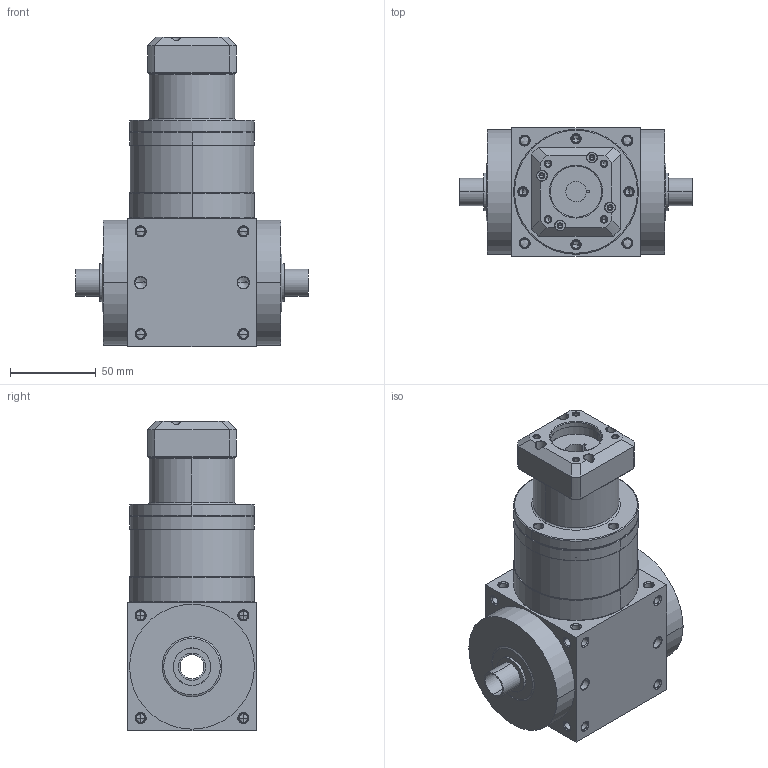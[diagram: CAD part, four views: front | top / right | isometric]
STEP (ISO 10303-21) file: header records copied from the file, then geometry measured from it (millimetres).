
FILE_DESCRIPTION((''),'2;1');
FILE_NAME('AT075FC2-P0405100202_ASM','2009-02-05T',('d00176'),(''),'PRO/ENGINEER BY PARAMETRIC TECHNOLOGY CORPORATION, 2006170','PRO/ENGINEER BY PARAMETRIC TECHNOLOGY CORPORATION, 2006170','');
FILE_SCHEMA(('CONFIG_CONTROL_DESIGN'));
Length unit declared in the file: millimetre
Products named in the file (5): ATFC-HOUSING-2-3; P1801300001; P0226300001; P0405100202; AT075FC2-P0405100202_ASM
Assembly tree (4 placements, depth 2):
  AT075FC2-P0405100202_ASM
    ATFC-HOUSING-2-3
    P1801300001
    P0226300001
    P0405100202
Bounding box: 136 x 75 x 181 mm (x, y, z)
Volume: 791713.4 mm3; surface area: 128820.1 mm2
Topology: 4 solids, 40 shells, 719 faces, 1780 edges, 1058 vertices
Faces by surface type: cylinder 318, cone 250, plane 101, torus 42, bspline 8
Entity records: 22104 total; most frequent: CARTESIAN_POINT 4989, DIRECTION 3852, ORIENTED_EDGE 3256, EDGE_CURVE 1700, AXIS2_PLACEMENT_3D 1618, VERTEX_POINT 1058, CIRCLE 890, EDGE_LOOP 854
